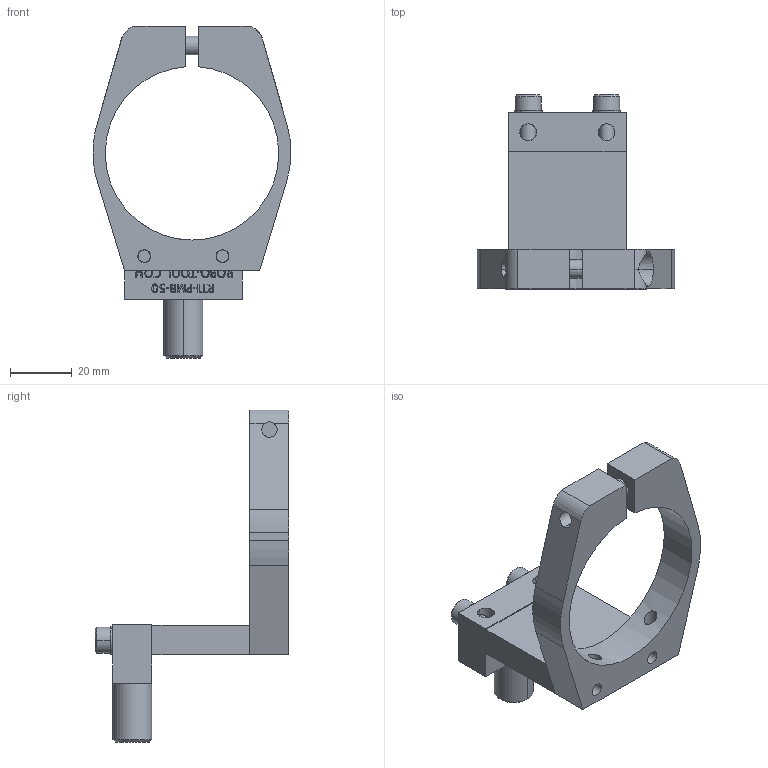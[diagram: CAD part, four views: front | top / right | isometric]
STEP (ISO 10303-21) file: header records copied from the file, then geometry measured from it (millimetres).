
FILE_DESCRIPTION (( 'STEP AP214' ), '1' );
FILE_NAME ('RTI-PNM-50-SPT30-125.STEP', '2013-10-22T14:40:01', ( 'user' ), ( '' ), 'SwSTEP 2.0', 'SolidWorks 2009', '' );
FILE_SCHEMA (( 'AUTOMOTIVE_DESIGN' ));
Length unit declared in the file: inch
Products named in the file (9): RTI-SM-SP-125; RTI-PMB-50; RTI-NM-SPT30; RTI-NM-56-B; M6 WASHER; M6 S.H.C.S._M6x30mm; M5 WASHER; M5 S.H.C.S._M5x55mm; RTI-PNM-50-SPT30-125
Assembly tree (10 placements, depth 3):
  RTI-PNM-50-SPT30-125
    RTI-NM-SPT30
      M6 S.H.C.S._M6x30mm
      M6 WASHER
      RTI-NM-56-B
    RTI-PMB-50
    M5 S.H.C.S._M5x55mm  x2
    RTI-SM-SP-125
    M5 WASHER  x2
Bounding box: 64.18 x 62.9 x 107.65 mm (x, y, z)
Volume: 44359.4 mm3; surface area: 23522.7 mm2
Topology: 9 solids, 9 shells, 1008 faces, 2608 edges, 1734 vertices
Faces by surface type: plane 619, bspline 306, cylinder 68, cone 15
Entity records: 60922 total; most frequent: CARTESIAN_POINT 27541, ORIENTED_EDGE 5116, DIRECTION 3417, EDGE_CURVE 2558, LINE 1801, VECTOR 1801, VERTEX_POINT 1702, EDGE_LOOP 1130
